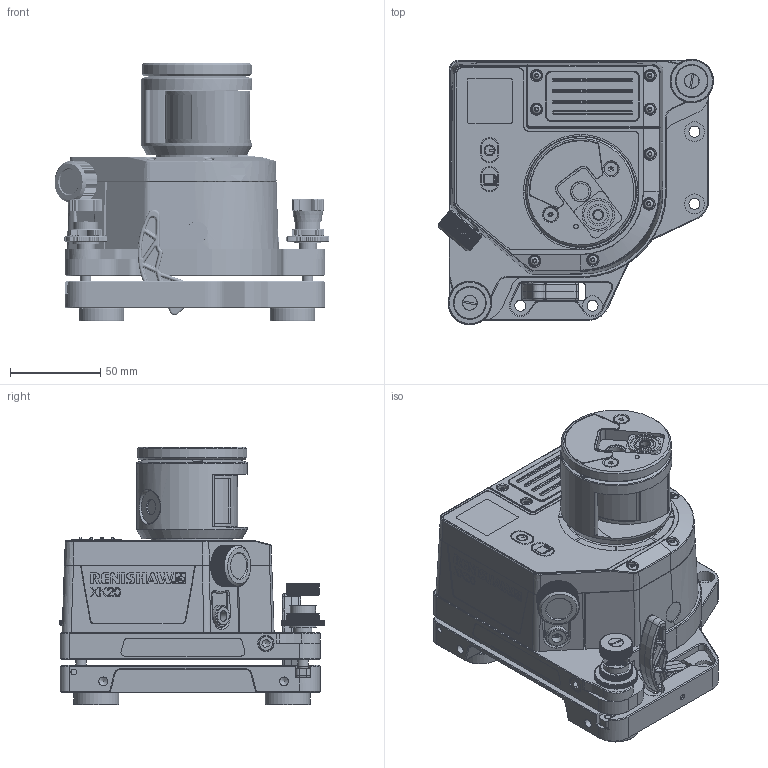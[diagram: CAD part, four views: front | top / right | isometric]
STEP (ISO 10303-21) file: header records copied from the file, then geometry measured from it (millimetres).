
FILE_DESCRIPTION(/* description */ ('CAx-IF Rec.Pracs.---Representation and Presentation of Product Manufacturing Information (PMI)---4.0---2014-10-13','CAx-IF Rec.Pracs.---3D Tessellated Geometry---0.4---2014-09-14','2;1'),/* implementation_level */ '2;1');
FILE_NAME(/* name */ 'M-9971-0200-01-B_XK20 LAUNCH UNIT _altrep_M-9971-0200-01-B-alt1_',/* time_stamp */ '2025-08-28T10:26:24+01:00',/* author */ (''),/* organization */ (''),/* preprocessor_version */ 'ST-DEVELOPER v20',/* originating_system */ 'SIEMENS PLM Software NX2312.8103',/* authorisation */ $);
FILE_SCHEMA (('AP242_MANAGED_MODEL_BASED_3D_ENGINEERING_MIM_LF { 1 0 10303 442 3 1 4 }'));
Length unit declared in the file: millimetre
Products named in the file (1): M-9971-0200-01-B_XK20 LAUNCH UNIT _altrep_M-9971-0200-01-B-alt1_
Bounding box: 152.31 x 147 x 142.8 mm (x, y, z)
Volume: 1221738.8 mm3; surface area: 159656.1 mm2
Topology: 1 solids, 1 shells, 6133 faces, 17641 edges, 11656 vertices
Faces by surface type: plane 3534, cylinder 2026, bspline 204, cone 198, torus 147, sphere 24
Full cylindrical faces by diameter (mm): 2.459 x1, 3 x1, 3.05 x1, 3.15 x1, 3.242 x14, 4 x3, 4.917 x12, 5 x9, 5.842 x1, 6 x7, 6.1 x4, 6.4 x2, 7.53 x2, 8 x4, 8.2 x2, 8.5 x3, 8.9 x1, 9 x3, 10 x4, 10.5 x1, 11 x4, 11.4 x1, 11.6 x2, 12 x5, 14 x2, 15 x2, 16 x3, 17 x3, 18 x1, 18.1 x1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
Entity records: 260136 total; most frequent: CARTESIAN_POINT 48107, DIRECTION 39307, ORIENTED_EDGE 35156, EDGE_CURVE 17578, AXIS2_PLACEMENT_3D 16486, VERTEX_POINT 11650, CIRCLE 10392, EDGE_LOOP 6368
